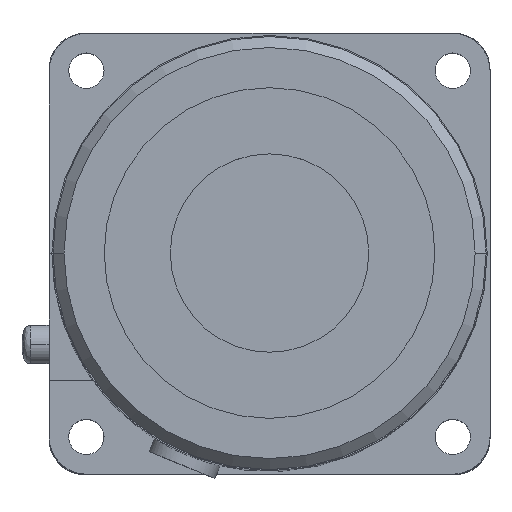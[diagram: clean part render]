
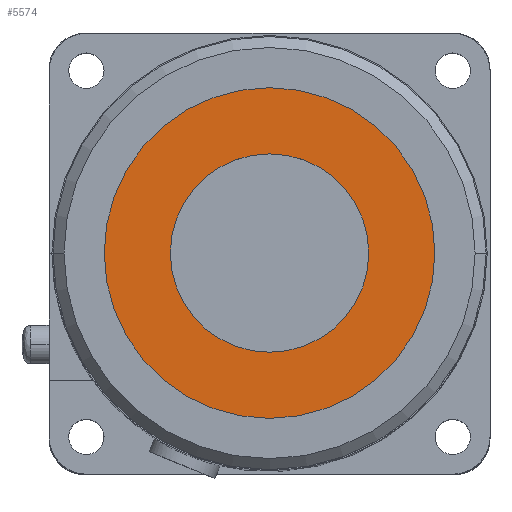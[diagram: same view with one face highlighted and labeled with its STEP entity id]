
A CAD part, top view. The second image highlights one B-rep face of the part: STEP entity #5574.
In plain terms, the highlighted planar face has unit normal (0, 0, 1).
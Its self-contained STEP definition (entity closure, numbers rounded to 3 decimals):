
#438 = DIRECTION ( 'NONE',  ( 1., 0., 0. ) ) ;
#520 = DIRECTION ( 'NONE',  ( 0., 0., 1. ) ) ;
#554 = CARTESIAN_POINT ( 'NONE',  ( 0., 0., 84.3 ) ) ;
#1070 = EDGE_CURVE ( 'NONE', #2811, #3626, #4809, .T. ) ;
#1453 = VERTEX_POINT ( 'NONE', #4717 ) ;
#1458 = VERTEX_POINT ( 'NONE', #4067 ) ;
#1543 = AXIS2_PLACEMENT_3D ( 'NONE', #3770, #3922, #4110 ) ;
#1686 = ORIENTED_EDGE ( 'NONE', *, *, #5505, .T. ) ;
#1762 = AXIS2_PLACEMENT_3D ( 'NONE', #2213, #4474, #4959 ) ;
#1846 = FACE_BOUND ( 'NONE', #5693, .T. ) ;
#2157 = FACE_OUTER_BOUND ( 'NONE', #5655, .T. ) ;
#2213 = CARTESIAN_POINT ( 'NONE',  ( 0., 0., 84.3 ) ) ;
#2455 = CIRCLE ( 'NONE', #1762, 30. ) ;
#2811 = VERTEX_POINT ( 'NONE', #3942 ) ;
#3319 = DIRECTION ( 'NONE',  ( 0., 0., -1. ) ) ;
#3393 = ORIENTED_EDGE ( 'NONE', *, *, #3882, .T. ) ;
#3459 = PLANE ( 'NONE',  #1543 ) ;
#3626 = VERTEX_POINT ( 'NONE', #4489 ) ;
#3770 = CARTESIAN_POINT ( 'NONE',  ( 0., 0., 84.3 ) ) ;
#3777 = AXIS2_PLACEMENT_3D ( 'NONE', #5061, #3319, #5577 ) ;
#3882 = EDGE_CURVE ( 'NONE', #1458, #1453, #4157, .T. ) ;
#3922 = DIRECTION ( 'NONE',  ( 0., 0., 1. ) ) ;
#3942 = CARTESIAN_POINT ( 'NONE',  ( -18., 0., 84.3 ) ) ;
#3954 = AXIS2_PLACEMENT_3D ( 'NONE', #5686, #5534, #5383 ) ;
#4053 = ORIENTED_EDGE ( 'NONE', *, *, #1070, .T. ) ;
#4067 = CARTESIAN_POINT ( 'NONE',  ( -30., 0., 84.3 ) ) ;
#4110 = DIRECTION ( 'NONE',  ( 1., 0., 0. ) ) ;
#4157 = CIRCLE ( 'NONE', #6111, 30. ) ;
#4474 = DIRECTION ( 'NONE',  ( 0., 0., 1. ) ) ;
#4489 = CARTESIAN_POINT ( 'NONE',  ( 18., 0., 84.3 ) ) ;
#4717 = CARTESIAN_POINT ( 'NONE',  ( 30., 0., 84.3 ) ) ;
#4809 = CIRCLE ( 'NONE', #3777, 18. ) ;
#4959 = DIRECTION ( 'NONE',  ( 1., 0., 0. ) ) ;
#5061 = CARTESIAN_POINT ( 'NONE',  ( 0., 0., 84.3 ) ) ;
#5383 = DIRECTION ( 'NONE',  ( 1., 0., 0. ) ) ;
#5442 = ORIENTED_EDGE ( 'NONE', *, *, #5908, .T. ) ;
#5505 = EDGE_CURVE ( 'NONE', #3626, #2811, #6128, .T. ) ;
#5534 = DIRECTION ( 'NONE',  ( 0., 0., -1. ) ) ;
#5574 = ADVANCED_FACE ( 'NONE', ( #2157, #1846 ), #3459, .T. ) ;
#5577 = DIRECTION ( 'NONE',  ( 1., 0., 0. ) ) ;
#5655 = EDGE_LOOP ( 'NONE', ( #5442, #3393 ) ) ;
#5686 = CARTESIAN_POINT ( 'NONE',  ( 0., 0., 84.3 ) ) ;
#5693 = EDGE_LOOP ( 'NONE', ( #1686, #4053 ) ) ;
#5908 = EDGE_CURVE ( 'NONE', #1453, #1458, #2455, .T. ) ;
#6111 = AXIS2_PLACEMENT_3D ( 'NONE', #554, #520, #438 ) ;
#6128 = CIRCLE ( 'NONE', #3954, 18. ) ;
